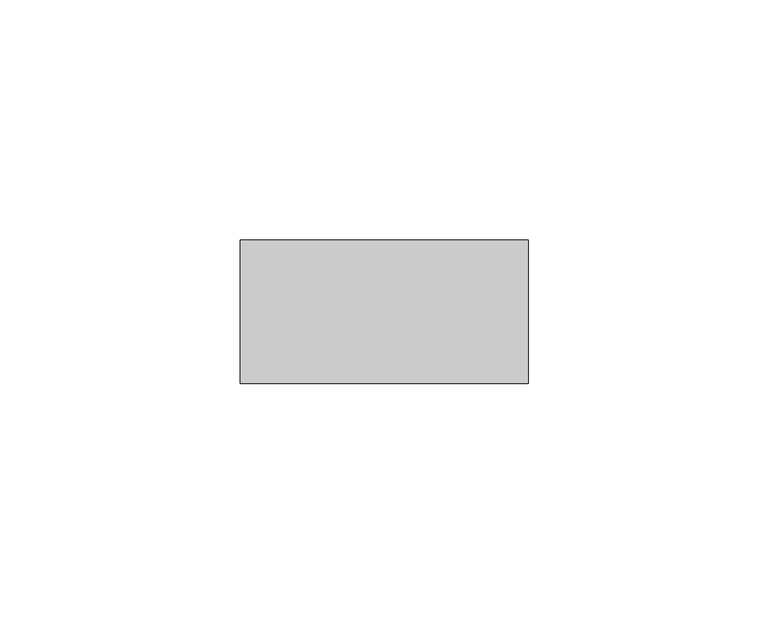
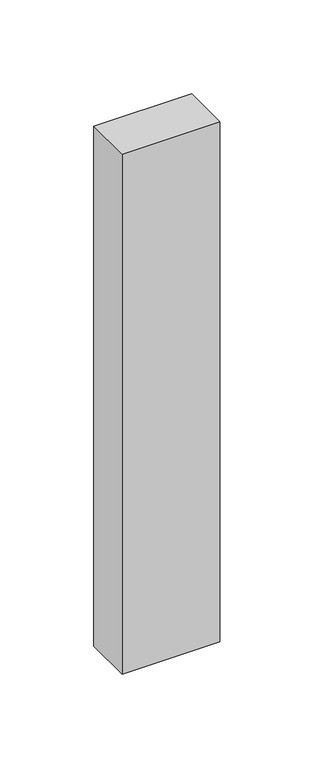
"""IFC4 building model written with IfcOpenShell, lengths in millimetres: member geometry, Прямоугольный импост : Квадрат 30 мм."""

from ifc_helpers import new_model, si_unit, frame, origin, place, context, project, spatial, polyline, outline, extrude, source, transform, mapped, element, save


def member_cf7b32f5(model_context):
    return source(origin(), model_context, "Body", "SweptSolid", [
        extrude(outline(polyline([(30.0, 15.0), (30.0, -15.0), (-30.0, -15.0), (-30.0, 15.0), (30.0, 15.0)])), frame((0.0, 0.0, -337.5), z_axis=(0.0, 0.0, 1.0), x_axis=(1.0, 0.0, 0.0)), (0.0, 0.0, 1.0), 337.5),
    ])


if __name__ == "__main__":
    model = new_model("IFC4")
    model_context = context("Model", 3, world=origin())
    ifc_project = project(units=[si_unit("LENGTHUNIT", "METRE", prefix="MILLI")], contexts=[model_context])
    site = spatial("IfcSite", under=ifc_project)
    building = spatial("IfcBuilding", under=site)
    placement = place(None, origin())
    member_shape = member_cf7b32f5(model_context)
    element("IfcMember", 1, ObjectType="Прямоугольный импост : Квадрат 30 мм", at=placement, inside=building, context=model_context, shape_type="MappedRepresentation", body=[
        mapped(member_shape, transform((0.0, 0.0, 0.0), x_axis=(1.0, 0.0, 0.0), y_axis=(0.0, 1.0, 0.0), z_axis=(0.0, 0.0, 1.0))),
    ])
    save(model, "model.ifc")
